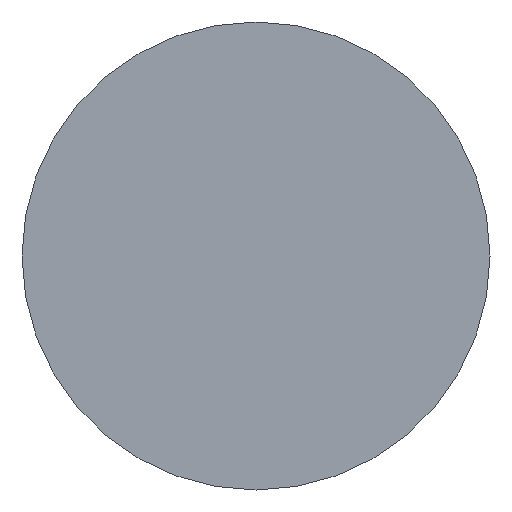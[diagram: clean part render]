
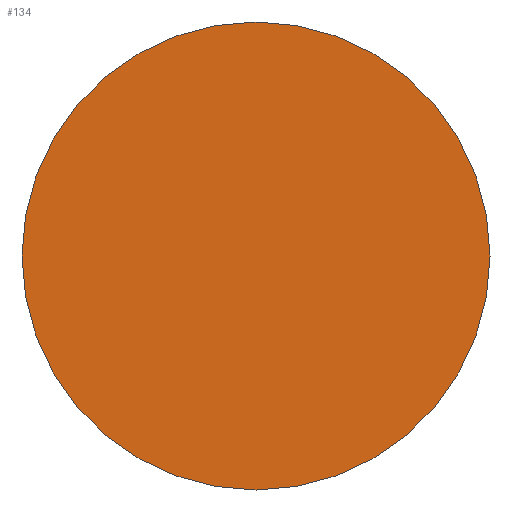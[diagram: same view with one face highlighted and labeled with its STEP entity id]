
A CAD part, front view. The second image highlights one B-rep face of the part: STEP entity #134.
In plain terms, the highlighted planar face has unit normal (0, -1, 0).
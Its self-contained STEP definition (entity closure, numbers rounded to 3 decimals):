
#5=CARTESIAN_POINT('',(0.,0.,0.));
#6=DIRECTION('',(0.,-1.,0.));
#7=DIRECTION('',(1.,0.,0.));
#8=AXIS2_PLACEMENT_3D('',#5,#6,#7);
#14=CARTESIAN_POINT('',(0.,0.,0.));
#15=DIRECTION('',(0.,1.,0.));
#16=DIRECTION('',(1.,0.,0.));
#17=AXIS2_PLACEMENT_3D('',#14,#15,#16);
#97=CARTESIAN_POINT('',(1.,0.,0.));
#99=VERTEX_POINT('',#97);
#111=CARTESIAN_POINT('',(-1.,0.,0.));
#113=VERTEX_POINT('',#111);
#123=CARTESIAN_POINT('',(0.,0.,0.));
#124=DIRECTION('',(0.,1.,0.));
#125=DIRECTION('',(1.,0.,0.));
#126=AXIS2_PLACEMENT_3D('',#123,#124,#125);
#127=PLANE('',#126);
#129=ORIENTED_EDGE('',*,*,#128,.F.);
#131=ORIENTED_EDGE('',*,*,#130,.T.);
#132=EDGE_LOOP('',(#129,#131));
#133=FACE_OUTER_BOUND('',#132,.F.);
#134=ADVANCED_FACE('',(#133),#127,.F.);
#9=CIRCLE('',#8,1.);
#18=CIRCLE('',#17,1.);
#128=EDGE_CURVE('',#99,#113,#9,.T.);
#130=EDGE_CURVE('',#99,#113,#18,.T.);
